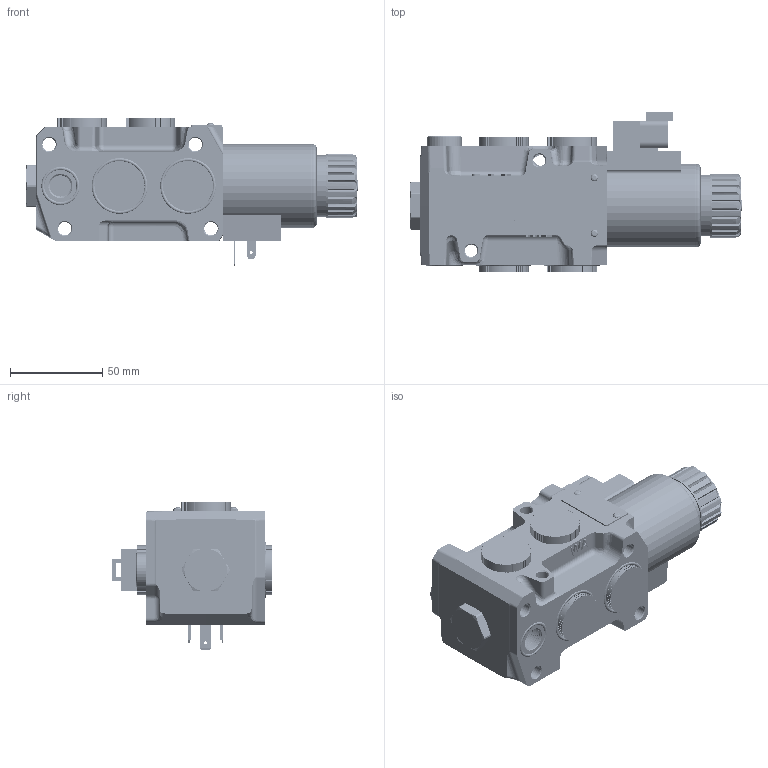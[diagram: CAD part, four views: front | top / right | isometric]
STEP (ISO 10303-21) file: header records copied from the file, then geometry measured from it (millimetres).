
FILE_DESCRIPTION(/* description */ (''),/* implementation_level */ '2;1');
FILE_NAME(/* name */ 'jyt-mh6.stp',/* time_stamp */ '2023-11-22T16:21:18+08:00',/* author */ (''),/* organization */ (''),/* preprocessor_version */ 'ST-DEVELOPER v16.7',/* originating_system */ 'SIEMENS PLM Software NX 12.0',/* authorisation */ '');
FILE_SCHEMA (('AUTOMOTIVE_DESIGN { 1 0 10303 214 3 1 1 1 }'));
Length unit declared in the file: millimetre
Products named in the file (1): jyt-mh6
Bounding box: 179.5 x 86.05 x 80.55 mm (x, y, z)
Volume: 219182.3 mm3; surface area: 182842 mm2
Topology: 41 solids, 42 shells, 3135 faces, 8562 edges, 5594 vertices
Faces by surface type: plane 1689, cylinder 940, bspline 235, cone 118, extrusion 114, torus 21, sphere 16, revolution 2
Full cylindrical faces by diameter (mm): 1.5 x2, 1.6 x2, 1.7 x1, 1.8 x4, 2 x7, 2.2 x2, 2.4 x1, 2.8 x2, 3 x3, 4 x5, 4.8 x1, 5.2 x1, 5.6 x1, 6 x3, 6.7 x47, 7.2 x4, 8 x2, 8.1 x2, 8.7 x3, 9.6 x2, 10 x1, 11 x2, 11.093 x1, 11.1 x1, 11.4 x11, 11.5 x12, 12 x20, 12.4 x1, 14 x6, 14.3 x2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
Entity records: 176389 total; most frequent: CARTESIAN_POINT 102120, ORIENTED_EDGE 15882, DIRECTION 13831, EDGE_CURVE 7941, VERTEX_POINT 5343, VECTOR 5157, LINE 5043, AXIS2_PLACEMENT_3D 4336
